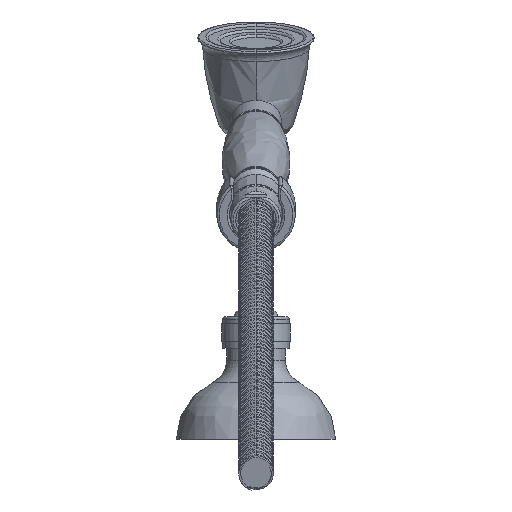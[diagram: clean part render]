
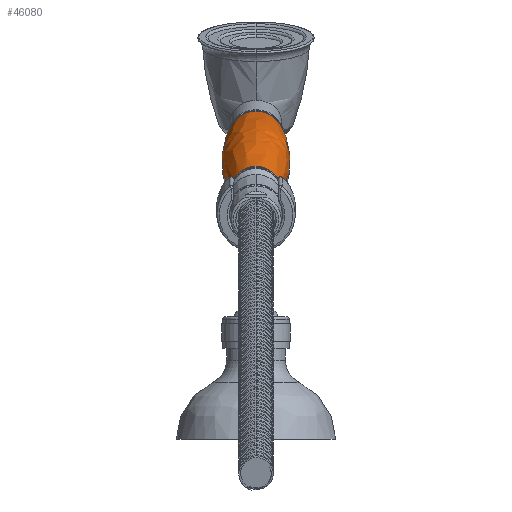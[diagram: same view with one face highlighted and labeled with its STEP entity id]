
A CAD part, front view. The second image highlights one B-rep face of the part: STEP entity #46080.
In plain terms, the highlighted free-form (B-spline) face has degree [3, 3] with [7, 4] control points.
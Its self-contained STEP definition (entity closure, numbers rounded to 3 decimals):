
#23839=CARTESIAN_POINT('',(200.,19.912,61.737));
#23840=DIRECTION('',(0.,-0.966,-0.259));
#23841=DIRECTION('',(1.,0.,0.));
#23842=AXIS2_PLACEMENT_3D('',#23839,#23840,#23841);
#23844=CARTESIAN_POINT('',(200.,101.159,83.507));
#23845=DIRECTION('',(0.,0.966,0.259));
#23846=DIRECTION('',(-1.,0.,0.));
#23847=AXIS2_PLACEMENT_3D('',#23844,#23845,#23846);
#23854=CARTESIAN_POINT('',(-55.92,62.928,73.263));
#23855=DIRECTION('',(0.,0.259,-0.966));
#23856=DIRECTION('',(0.989,0.142,0.038));
#23857=AXIS2_PLACEMENT_3D('',#23854,#23855,#23856);
#23864=CARTESIAN_POINT('',(455.92,62.928,73.263));
#23865=DIRECTION('',(0.,-0.259,0.966));
#23866=DIRECTION('',(-0.989,0.142,0.038));
#23867=AXIS2_PLACEMENT_3D('',#23864,#23865,#23866);
#25191=CARTESIAN_POINT('',(189.622,19.912,61.737));
#25192=CARTESIAN_POINT('',(210.378,19.912,61.737));
#25193=VERTEX_POINT('',#25191);
#25194=VERTEX_POINT('',#25192);
#25203=CARTESIAN_POINT('',(188.841,101.159,83.507));
#25204=CARTESIAN_POINT('',(211.159,101.159,83.507));
#25205=VERTEX_POINT('',#25203);
#25206=VERTEX_POINT('',#25204);
#46042=CARTESIAN_POINT('',(189.926,18.467,60.694));
#46043=CARTESIAN_POINT('',(184.903,46.538,67.888));
#46044=CARTESIAN_POINT('',(184.631,74.949,75.483));
#46045=CARTESIAN_POINT('',(189.115,102.95,83.278));
#46046=CARTESIAN_POINT('',(189.536,16.863,66.682));
#46047=CARTESIAN_POINT('',(184.319,44.133,76.862));
#46048=CARTESIAN_POINT('',(184.036,72.501,84.619));
#46049=CARTESIAN_POINT('',(188.694,101.216,89.748));
#46050=CARTESIAN_POINT('',(193.788,15.691,71.056));
#46051=CARTESIAN_POINT('',(190.691,42.377,83.417));
#46052=CARTESIAN_POINT('',(190.523,70.713,91.292));
#46053=CARTESIAN_POINT('',(193.288,99.95,94.474));
#46054=CARTESIAN_POINT('',(200.,15.691,71.056));
#46055=CARTESIAN_POINT('',(200.,42.377,83.417));
#46056=CARTESIAN_POINT('',(200.,70.713,91.292));
#46057=CARTESIAN_POINT('',(200.,99.95,94.474));
#46058=CARTESIAN_POINT('',(206.212,15.691,71.056));
#46059=CARTESIAN_POINT('',(209.309,42.377,83.417));
#46060=CARTESIAN_POINT('',(209.477,70.713,91.292));
#46061=CARTESIAN_POINT('',(206.712,99.95,94.474));
#46062=CARTESIAN_POINT('',(210.464,16.863,66.682));
#46063=CARTESIAN_POINT('',(215.681,44.133,76.862));
#46064=CARTESIAN_POINT('',(215.964,72.501,84.619));
#46065=CARTESIAN_POINT('',(211.306,101.216,89.748));
#46066=CARTESIAN_POINT('',(210.074,18.467,60.694));
#46067=CARTESIAN_POINT('',(215.097,46.538,67.888));
#46068=CARTESIAN_POINT('',(215.369,74.949,75.483));
#46069=CARTESIAN_POINT('',(210.885,102.95,83.278));
#46070=(BOUNDED_SURFACE()B_SPLINE_SURFACE(3,3,((#46042,#46043,#46044,#46045),(
#46046,#46047,#46048,#46049),(#46050,#46051,#46052,#46053),(#46054,#46055,
#46056,#46057),(#46058,#46059,#46060,#46061),(#46062,#46063,#46064,#46065),(
#46066,#46067,#46068,#46069)),.UNSPECIFIED.,.F.,.F.,.F.)B_SPLINE_SURFACE_WITH_KNOTS((4,3,4),(4,4),(0.,1.,2.),(0.,1.),.UNSPECIFIED.)GEOMETRIC_REPRESENTATION_ITEM()RATIONAL_B_SPLINE_SURFACE(((1.195,1.185,
1.185,1.195),(0.944,0.936,
0.936,0.944),(0.944,0.936,
0.936,0.944),(1.195,1.185,
1.185,1.195),(0.944,0.936,
0.936,0.944),(0.944,0.936,
0.936,0.944),(1.195,1.185,
1.185,1.195)))REPRESENTATION_ITEM('')SURFACE());
#46071=ORIENTED_EDGE('',*,*,#46036,.T.);
#46073=ORIENTED_EDGE('',*,*,#46072,.F.);
#46075=ORIENTED_EDGE('',*,*,#46074,.T.);
#46077=ORIENTED_EDGE('',*,*,#46076,.T.);
#46078=EDGE_LOOP('',(#46071,#46073,#46075,#46077));
#46079=FACE_OUTER_BOUND('',#46078,.F.);
#46080=ADVANCED_FACE('',(#46079),#46070,.T.);
#23843=CIRCLE('',#23842,10.378);
#23848=CIRCLE('',#23847,11.159);
#23858=CIRCLE('',#23857,269.996);
#23868=CIRCLE('',#23867,269.996);
#46036=EDGE_CURVE('',#25194,#25193,#23843,.T.);
#46072=EDGE_CURVE('',#25205,#25193,#23868,.T.);
#46074=EDGE_CURVE('',#25205,#25206,#23848,.T.);
#46076=EDGE_CURVE('',#25206,#25194,#23858,.T.);
